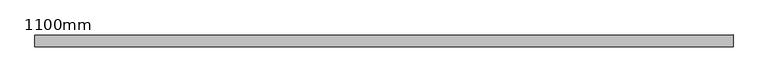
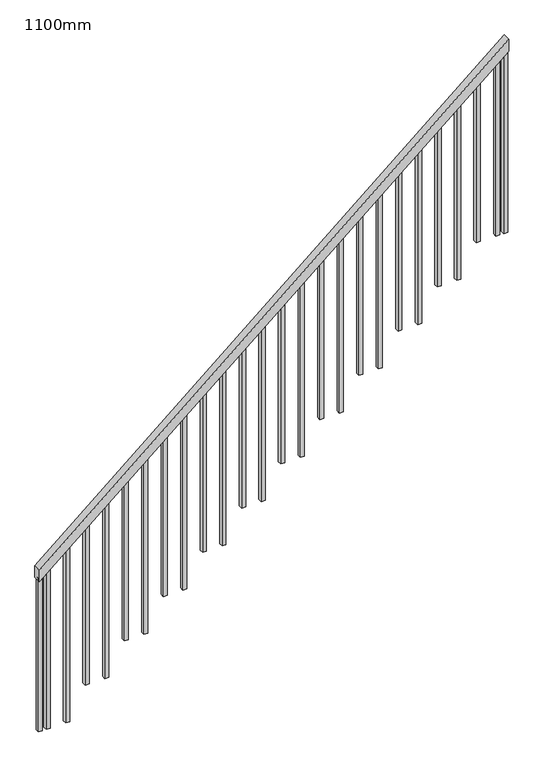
"""IFC4 building model written with IfcOpenShell, lengths in millimetres: railing geometry, 1100mm."""

from ifc_helpers import new_model, si_unit, frame, origin, place, context, project, spatial, polyline, outline, extrude, source, transform, mapped, element, save


def railing_1100mm_a3e7a364(model_context):
    return source(origin(), model_context, "Body", "SweptSolid", [
        extrude(outline(polyline([(1461.5384615, -5434.8860857), (1382.9412937, -5434.8860857), (3921.4028322, -2434.8860857), (4000.0, -2434.8860857), (1461.5384615, -5434.8860857)])), frame((0.0, -2653.2572404, 0.0), z_axis=(0.0, 1.0, 0.0), x_axis=(0.0, 0.0, 1.0)), (0.0, 0.0, 1.0), 50.0),
        extrude(outline(polyline([(2688.4615385, -2509.8860857), (2688.4615385, -2484.8860857), (3897.6923077, -2484.8860857), (3876.5384615, -2509.8860857), (2688.4615385, -2509.8860857)])), frame((0.0, -2640.7572404, 0.0), z_axis=(0.0, 1.0, 0.0), x_axis=(0.0, 0.0, 1.0)), (0.0, 0.0, 1.0), 25.0),
        extrude(outline(polyline([(2688.4615385, -2634.8860857), (2688.4615385, -2609.8860857), (3791.9230769, -2609.8860857), (3770.7692308, -2634.8860857), (2688.4615385, -2634.8860857)])), frame((0.0, -2640.7572404, 0.0), z_axis=(0.0, 1.0, 0.0), x_axis=(0.0, 0.0, 1.0)), (0.0, 0.0, 1.0), 25.0),
        extrude(outline(polyline([(2476.9230769, -2759.8860857), (2476.9230769, -2734.8860857), (3686.1538462, -2734.8860857), (3665.0, -2759.8860857), (2476.9230769, -2759.8860857)])), frame((0.0, -2640.7572404, 0.0), z_axis=(0.0, 1.0, 0.0), x_axis=(0.0, 0.0, 1.0)), (0.0, 0.0, 1.0), 25.0),
        extrude(outline(polyline([(2476.9230769, -2884.8860857), (2476.9230769, -2859.8860857), (3580.3846154, -2859.8860857), (3559.2307692, -2884.8860857), (2476.9230769, -2884.8860857)])), frame((0.0, -2640.7572404, 0.0), z_axis=(0.0, 1.0, 0.0), x_axis=(0.0, 0.0, 1.0)), (0.0, 0.0, 1.0), 25.0),
        extrude(outline(polyline([(2265.3846154, -3009.8860857), (2265.3846154, -2984.8860857), (3474.6153846, -2984.8860857), (3453.4615385, -3009.8860857), (2265.3846154, -3009.8860857)])), frame((0.0, -2640.7572404, 0.0), z_axis=(0.0, 1.0, 0.0), x_axis=(0.0, 0.0, 1.0)), (0.0, 0.0, 1.0), 25.0),
        extrude(outline(polyline([(2265.3846154, -3134.8860857), (2265.3846154, -3109.8860857), (3368.8461538, -3109.8860857), (3347.6923077, -3134.8860857), (2265.3846154, -3134.8860857)])), frame((0.0, -2640.7572404, 0.0), z_axis=(0.0, 1.0, 0.0), x_axis=(0.0, 0.0, 1.0)), (0.0, 0.0, 1.0), 25.0),
        extrude(outline(polyline([(2053.8461538, -3259.8860857), (2053.8461538, -3234.8860857), (3263.0769231, -3234.8860857), (3241.9230769, -3259.8860857), (2053.8461538, -3259.8860857)])), frame((0.0, -2640.7572404, 0.0), z_axis=(0.0, 1.0, 0.0), x_axis=(0.0, 0.0, 1.0)), (0.0, 0.0, 1.0), 25.0),
        extrude(outline(polyline([(2053.8461538, -3384.8860857), (2053.8461538, -3359.8860857), (3157.3076923, -3359.8860857), (3136.1538462, -3384.8860857), (2053.8461538, -3384.8860857)])), frame((0.0, -2640.7572404, 0.0), z_axis=(0.0, 1.0, 0.0), x_axis=(0.0, 0.0, 1.0)), (0.0, 0.0, 1.0), 25.0),
        extrude(outline(polyline([(1842.3076923, -3509.8860857), (1842.3076923, -3484.8860857), (3051.5384615, -3484.8860857), (3030.3846154, -3509.8860857), (1842.3076923, -3509.8860857)])), frame((0.0, -2640.7572404, 0.0), z_axis=(0.0, 1.0, 0.0), x_axis=(0.0, 0.0, 1.0)), (0.0, 0.0, 1.0), 25.0),
        extrude(outline(polyline([(1842.3076923, -3634.8860857), (1842.3076923, -3609.8860857), (2945.7692308, -3609.8860857), (2924.6153846, -3634.8860857), (1842.3076923, -3634.8860857)])), frame((0.0, -2640.7572404, 0.0), z_axis=(0.0, 1.0, 0.0), x_axis=(0.0, 0.0, 1.0)), (0.0, 0.0, 1.0), 25.0),
        extrude(outline(polyline([(1630.7692308, -3759.8860857), (1630.7692308, -3734.8860857), (2840.0, -3734.8860857), (2818.8461538, -3759.8860857), (1630.7692308, -3759.8860857)])), frame((0.0, -2640.7572404, 0.0), z_axis=(0.0, 1.0, 0.0), x_axis=(0.0, 0.0, 1.0)), (0.0, 0.0, 1.0), 25.0),
        extrude(outline(polyline([(1630.7692308, -3884.8860857), (1630.7692308, -3859.8860857), (2734.2307692, -3859.8860857), (2713.0769231, -3884.8860857), (1630.7692308, -3884.8860857)])), frame((0.0, -2640.7572404, 0.0), z_axis=(0.0, 1.0, 0.0), x_axis=(0.0, 0.0, 1.0)), (0.0, 0.0, 1.0), 25.0),
        extrude(outline(polyline([(1419.2307692, -4009.8860857), (1419.2307692, -3984.8860857), (2628.4615385, -3984.8860857), (2607.3076923, -4009.8860857), (1419.2307692, -4009.8860857)])), frame((0.0, -2640.7572404, 0.0), z_axis=(0.0, 1.0, 0.0), x_axis=(0.0, 0.0, 1.0)), (0.0, 0.0, 1.0), 25.0),
        extrude(outline(polyline([(1419.2307692, -4134.8860857), (1419.2307692, -4109.8860857), (2522.6923077, -4109.8860857), (2501.5384615, -4134.8860857), (1419.2307692, -4134.8860857)])), frame((0.0, -2640.7572404, 0.0), z_axis=(0.0, 1.0, 0.0), x_axis=(0.0, 0.0, 1.0)), (0.0, 0.0, 1.0), 25.0),
        extrude(outline(polyline([(1207.6923077, -4259.8860857), (1207.6923077, -4234.8860857), (2416.9230769, -4234.8860857), (2395.7692308, -4259.8860857), (1207.6923077, -4259.8860857)])), frame((0.0, -2640.7572404, 0.0), z_axis=(0.0, 1.0, 0.0), x_axis=(0.0, 0.0, 1.0)), (0.0, 0.0, 1.0), 25.0),
        extrude(outline(polyline([(1207.6923077, -4384.8860857), (1207.6923077, -4359.8860857), (2311.1538462, -4359.8860857), (2290.0, -4384.8860857), (1207.6923077, -4384.8860857)])), frame((0.0, -2640.7572404, 0.0), z_axis=(0.0, 1.0, 0.0), x_axis=(0.0, 0.0, 1.0)), (0.0, 0.0, 1.0), 25.0),
        extrude(outline(polyline([(996.1538462, -4509.8860857), (996.1538462, -4484.8860857), (2205.3846154, -4484.8860857), (2184.2307692, -4509.8860857), (996.1538462, -4509.8860857)])), frame((0.0, -2640.7572404, 0.0), z_axis=(0.0, 1.0, 0.0), x_axis=(0.0, 0.0, 1.0)), (0.0, 0.0, 1.0), 25.0),
        extrude(outline(polyline([(996.1538462, -4634.8860857), (996.1538462, -4609.8860857), (2099.6153846, -4609.8860857), (2078.4615385, -4634.8860857), (996.1538462, -4634.8860857)])), frame((0.0, -2640.7572404, 0.0), z_axis=(0.0, 1.0, 0.0), x_axis=(0.0, 0.0, 1.0)), (0.0, 0.0, 1.0), 25.0),
        extrude(outline(polyline([(784.6153846, -4759.8860857), (784.6153846, -4734.8860857), (1993.8461538, -4734.8860857), (1972.6923077, -4759.8860857), (784.6153846, -4759.8860857)])), frame((0.0, -2640.7572404, 0.0), z_axis=(0.0, 1.0, 0.0), x_axis=(0.0, 0.0, 1.0)), (0.0, 0.0, 1.0), 25.0),
        extrude(outline(polyline([(784.6153846, -4884.8860857), (784.6153846, -4859.8860857), (1888.0769231, -4859.8860857), (1866.9230769, -4884.8860857), (784.6153846, -4884.8860857)])), frame((0.0, -2640.7572404, 0.0), z_axis=(0.0, 1.0, 0.0), x_axis=(0.0, 0.0, 1.0)), (0.0, 0.0, 1.0), 25.0),
        extrude(outline(polyline([(573.0769231, -5009.8860857), (573.0769231, -4984.8860857), (1782.3076923, -4984.8860857), (1761.1538462, -5009.8860857), (573.0769231, -5009.8860857)])), frame((0.0, -2640.7572404, 0.0), z_axis=(0.0, 1.0, 0.0), x_axis=(0.0, 0.0, 1.0)), (0.0, 0.0, 1.0), 25.0),
        extrude(outline(polyline([(573.0769231, -5134.8860857), (573.0769231, -5109.8860857), (1676.5384615, -5109.8860857), (1655.3846154, -5134.8860857), (573.0769231, -5134.8860857)])), frame((0.0, -2640.7572404, 0.0), z_axis=(0.0, 1.0, 0.0), x_axis=(0.0, 0.0, 1.0)), (0.0, 0.0, 1.0), 25.0),
        extrude(outline(polyline([(361.5384615, -5259.8860857), (361.5384615, -5234.8860857), (1570.7692308, -5234.8860857), (1549.6153846, -5259.8860857), (361.5384615, -5259.8860857)])), frame((0.0, -2640.7572404, 0.0), z_axis=(0.0, 1.0, 0.0), x_axis=(0.0, 0.0, 1.0)), (0.0, 0.0, 1.0), 25.0),
        extrude(outline(polyline([(361.5384615, -5384.8860857), (361.5384615, -5359.8860857), (1465.0, -5359.8860857), (1443.8461538, -5384.8860857), (361.5384615, -5384.8860857)])), frame((0.0, -2640.7572404, 0.0), z_axis=(0.0, 1.0, 0.0), x_axis=(0.0, 0.0, 1.0)), (0.0, 0.0, 1.0), 25.0),
        extrude(outline(polyline([(2688.4615385, -2459.8860857), (2688.4615385, -2434.8860857), (3940.0, -2434.8860857), (3918.8461538, -2459.8860857), (2688.4615385, -2459.8860857)])), frame((0.0, -2640.7572404, 0.0), z_axis=(0.0, 1.0, 0.0), x_axis=(0.0, 0.0, 1.0)), (0.0, 0.0, 1.0), 25.0),
        extrude(outline(polyline([(361.5384615, -5434.8860857), (361.5384615, -5409.8860857), (1422.6923077, -5409.8860857), (1401.5384615, -5434.8860857), (361.5384615, -5434.8860857)])), frame((0.0, -2640.7572404, 0.0), z_axis=(0.0, 1.0, 0.0), x_axis=(0.0, 0.0, 1.0)), (0.0, 0.0, 1.0), 25.0),
    ])


if __name__ == "__main__":
    model = new_model("IFC4")
    model_context = context("Model", 3, world=origin())
    ifc_project = project(units=[si_unit("LENGTHUNIT", "METRE", prefix="MILLI")], contexts=[model_context])
    site = spatial("IfcSite", under=ifc_project)
    building = spatial("IfcBuilding", under=site)
    placement = place(None, origin())
    railing_1100mm_shape = railing_1100mm_a3e7a364(model_context)
    element("IfcRailing", 1, ObjectType="1100mm", at=placement, inside=building, context=model_context, shape_type="MappedRepresentation", body=[
        mapped(railing_1100mm_shape, transform((0.0, 0.0, 0.0), x_axis=(1.0, 0.0, 0.0), y_axis=(0.0, 1.0, 0.0), z_axis=(0.0, 0.0, 1.0))),
    ])
    save(model, "model.ifc")
